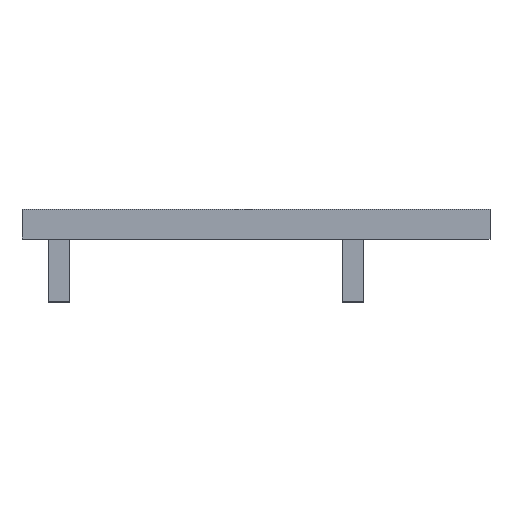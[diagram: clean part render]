
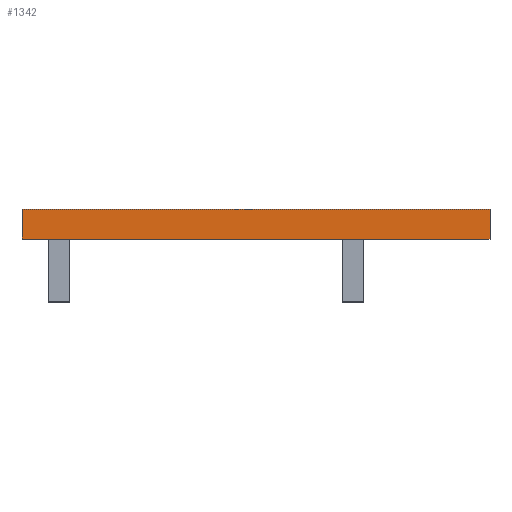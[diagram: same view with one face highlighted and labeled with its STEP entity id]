
A CAD part, left-side view. The second image highlights one B-rep face of the part: STEP entity #1342.
In plain terms, the highlighted planar face has unit normal (-1, 0, 0).
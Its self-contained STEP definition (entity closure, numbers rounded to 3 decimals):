
#125=DIRECTION('',(0.,0.,1.));
#126=VECTOR('',#125,57.);
#127=CARTESIAN_POINT('',(-275.,0.,-28.5));
#128=LINE('',#127,#126);
#421=DIRECTION('',(0.,0.,1.));
#422=VECTOR('',#421,57.);
#423=CARTESIAN_POINT('',(-275.,890.,-28.5));
#424=LINE('',#423,#422);
#449=DIRECTION('',(0.,1.,0.));
#450=VECTOR('',#449,890.);
#451=CARTESIAN_POINT('',(-275.,0.,28.5));
#452=LINE('',#451,#450);
#453=DIRECTION('',(0.,1.,0.));
#454=VECTOR('',#453,890.);
#455=CARTESIAN_POINT('',(-275.,0.,-28.5));
#456=LINE('',#455,#454);
#785=CARTESIAN_POINT('',(-275.,0.,28.5));
#787=VERTEX_POINT('',#785);
#790=CARTESIAN_POINT('',(-275.,0.,-28.5));
#792=VERTEX_POINT('',#790);
#801=CARTESIAN_POINT('',(-275.,890.,28.5));
#803=VERTEX_POINT('',#801);
#807=CARTESIAN_POINT('',(-275.,890.,-28.5));
#808=VERTEX_POINT('',#807);
#1331=CARTESIAN_POINT('',(-275.,0.,-28.5));
#1332=DIRECTION('',(-1.,0.,0.));
#1333=DIRECTION('',(0.,0.,1.));
#1334=AXIS2_PLACEMENT_3D('',#1331,#1332,#1333);
#1335=PLANE('',#1334);
#1336=ORIENTED_EDGE('',*,*,#1014,.F.);
#1337=ORIENTED_EDGE('',*,*,#1280,.T.);
#1338=ORIENTED_EDGE('',*,*,#1296,.T.);
#1339=ORIENTED_EDGE('',*,*,#1324,.F.);
#1340=EDGE_LOOP('',(#1336,#1337,#1338,#1339));
#1341=FACE_OUTER_BOUND('',#1340,.F.);
#1014=EDGE_CURVE('',#792,#787,#128,.T.);
#1280=EDGE_CURVE('',#792,#808,#456,.T.);
#1296=EDGE_CURVE('',#808,#803,#424,.T.);
#1324=EDGE_CURVE('',#787,#803,#452,.T.);
#1342=ADVANCED_FACE('',(#1341),#1335,.T.);
